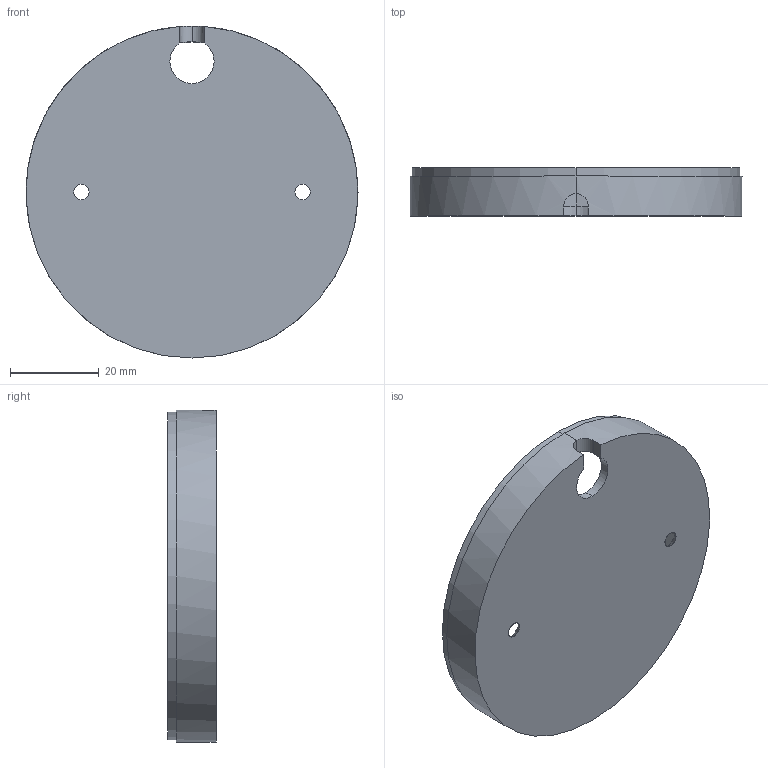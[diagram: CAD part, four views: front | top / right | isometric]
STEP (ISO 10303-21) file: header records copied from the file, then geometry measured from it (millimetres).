
FILE_DESCRIPTION (( 'STEP AP203' ), '1' );
FILE_NAME ('Gehaeuse_LitePanel_68_24.STEP', '2024-12-02T05:17:23', ( '' ), ( '' ), 'SwSTEP 2.0', 'SolidWorks 2023', '' );
FILE_SCHEMA (( 'CONFIG_CONTROL_DESIGN' ));
Length unit declared in the file: millimetre
Products named in the file (1): Gehaeuse_LitePanel_68_24
Bounding box: 75 x 10.9 x 75 mm (x, y, z)
Volume: 15812.1 mm3; surface area: 13156.6 mm2
Topology: 1 solids, 1 shells, 24 faces, 60 edges, 38 vertices
Faces by surface type: cylinder 14, plane 6, cone 4
Entity records: 865 total; most frequent: CARTESIAN_POINT 183, DIRECTION 134, ORIENTED_EDGE 120, EDGE_CURVE 60, AXIS2_PLACEMENT_3D 53, VERTEX_POINT 38, EDGE_LOOP 30, VECTOR 28
